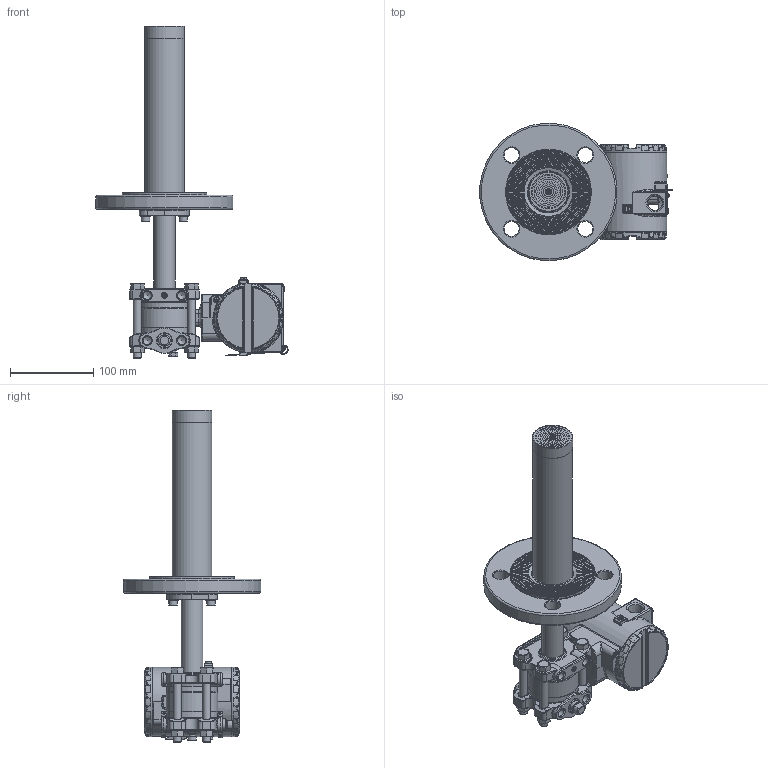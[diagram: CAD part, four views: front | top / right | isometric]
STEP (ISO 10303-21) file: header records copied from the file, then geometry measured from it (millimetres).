
FILE_DESCRIPTION(/* description */ (''),/* implementation_level */ '2;1');
FILE_NAME(/* name */ 'F:\Area\Desenvolvimento_2\Projects\Sensor\projetos\LD30X\montagens 3d - clientes\SELO NIVEL\LD30XL DN50 PN40 RF ext 200 ref 1-4NPT purga acima.stp',/* time_stamp */ '2023-02-15T11:14:02-03:00',/* author */ ('inventor02'),/* organization */ (''),/* preprocessor_version */ 'ST-DEVELOPER v17',/* originating_system */ 'Autodesk Inventor 2019',/* authorisation */ '');
FILE_SCHEMA (('CONFIG_CONTROL_DESIGN'));
Products named in the file (41): LD30XL DN50 PN40 RF ext 200 ref 1-4NPT purga acima; 204-0301-L-DN50 PN40 RF ext 200 purga acima; nivel fx3 com baixa diferencial 1-4NPT purga acima; involucro fx0-3 apos a usinagem final; flange diferencial std purga; 101-C-7484-01 flange selo nivel VR; 201-A-0504-tubo união teste 1; bujao 1-4NPT; Sangria; Porca 3-8 x 16 UNC; Paraf. 3-8 x 16 UNC; adaptação tubo x flanges 1-1-2 a 4pol; 101-B-0161-anel cortado do tubo - teste1; 101-B-0162-flange fixação tubo; ANSI B18.3.1M - M6x1 x 16; DIN 127 - A 6; flange DN50 PN40 ext 200; 101-C-0134-10; 101-B-7700-01-200; 101-B-0168-11; carcaça vazia com tampas e plaqueta; carcaça LD inox sem letras; Subconjunto plaqueta 300; Plaqueta transmissor; Parafuso da Plaqueta; Rebite da Plaqueta; 096-A-0169-03; 101-A-0502-01; Chapa aterramento externo; ISO 1207 - M4 x 8; DIN 915 - M6 x 10; ANSI B18.3.1M - M4x0,7 x 8; Subconjunto tampa com visor aluminio; tampa pintada; VIDRO DO VISOR; oring 41x1 vidro tampa; Trava do vidro da tampa com visor; trava do vidro VH256; Subconjunto tampa sem visor-aluminio; tampa cega 300 pintada p0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
Assembly tree (51 placements, depth 4):
  LD30XL DN50 PN40 RF ext 200 ref 1-4NPT purga acima
    204-0301-L-DN50 PN40 RF ext 200 purga acima
      nivel fx3 com baixa diferencial 1-4NPT purga acima
        involucro fx0-3 apos a usinagem final
        flange diferencial std purga
        101-C-7484-01 flange selo nivel VR
        201-A-0504-tubo união teste 1
        DIN 915 - M6 x 10
        bujao 1-4NPT
        Sangria
        Porca 3-8 x 16 UNC  x4
        Paraf. 3-8 x 16 UNC  x4
      adaptação tubo x flanges 1-1-2 a 4pol
        101-B-0161-anel cortado do tubo - teste1
        101-B-0162-flange fixação tubo
        ANSI B18.3.1M - M6x1 x 16  x2
        DIN 127 - A 6  x2
      flange DN50 PN40 ext 200
        101-C-0134-10
        101-B-7700-01-200
        101-B-0168-11
    carcaça vazia com tampas e plaqueta
      carcaça LD inox sem letras
      Subconjunto plaqueta 300
        Plaqueta transmissor
        Parafuso da Plaqueta
        Rebite da Plaqueta
        096-A-0169-03
        101-A-0502-01
      Chapa aterramento externo
      ISO 1207 - M4 x 8
      DIN 915 - M6 x 10
      ANSI B18.3.1M - M4x0,7 x 8  x2
      Subconjunto tampa com visor aluminio
        tampa pintada
        VIDRO DO VISOR
        oring 41x1 vidro tampa
        Trava do vidro da tampa com visor
        trava do vidro VH256
        00034775-0
      Subconjunto tampa sem visor-aluminio
        tampa cega 300 pintada p0
        00034775-0
Bounding box: 230.47 x 164.37 x 398.3 mm (x, y, z)
Volume: 1075584.3 mm3; surface area: 369284.5 mm2
Topology: 43 solids, 43 shells, 2762 faces, 6590 edges, 3902 vertices
Faces by surface type: bspline 666, cylinder 656, plane 578, torus 488, cone 248, sphere 126
Full cylindrical faces by diameter (mm): 2 x4, 2.1 x2, 2.459 x5, 2.5 x1, 2.642 x1, 2.7 x1, 2.8 x1, 3 x4, 3.242 x4, 3.5 x5, 3.571 x1, 4 x5, 4.3 x1, 4.4 x1, 4.917 x4, 5 x1, 5.5 x3, 6 x6, 6.647 x1, 7 x7, 7.087 x2, 7.6 x2, 7.798 x4, 8 x1, 8.7 x2, 9.525 x4, 9.728 x6, 10 x2, 10.5 x8, 10.719 x2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
Entity records: 95089 total; most frequent: CARTESIAN_POINT 34703, DIRECTION 12483, ORIENTED_EDGE 12360, EDGE_CURVE 6180, AXIS2_PLACEMENT_3D 5520, VERTEX_POINT 3708, CIRCLE 3268, EDGE_LOOP 2820
